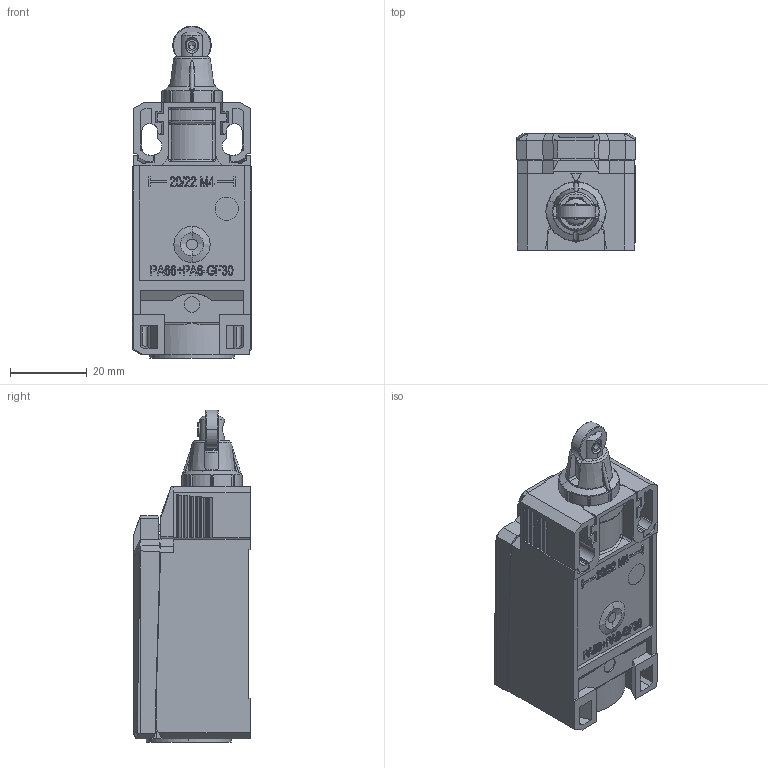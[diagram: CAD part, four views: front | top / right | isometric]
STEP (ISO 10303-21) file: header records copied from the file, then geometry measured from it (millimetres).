
FILE_DESCRIPTION((''),'2;1');
FILE_NAME('6083000414','2024-01-23T07:04:42',('markus.finger'),(''),'CREO PARAMETRIC BY PTC INC, 2022124','CREO PARAMETRIC BY PTC INC, 2022124','');
FILE_SCHEMA(('AUTOMOTIVE_DESIGN { 1 0 10303 214 1 1 1 1 }'));
Products named in the file (1): 6083000414
Bounding box: 31 x 30.3 x 86.24 mm (x, y, z)
Volume: 23969 mm3; surface area: 25275.2 mm2
Topology: 2 solids, 2 shells, 1944 faces, 5360 edges, 3435 vertices
Faces by surface type: plane 1015, cylinder 408, extrusion 253, cone 93, torus 71, sphere 58, bspline 46
Entity records: 69501 total; most frequent: CARTESIAN_POINT 20890, ORIENTED_EDGE 10704, DIRECTION 8876, EDGE_CURVE 5352, VECTOR 3559, VERTEX_POINT 3435, LINE 3306, AXIS2_PLACEMENT_3D 2657
